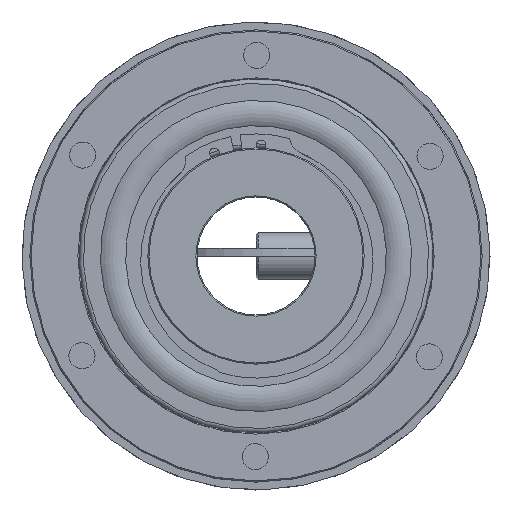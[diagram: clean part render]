
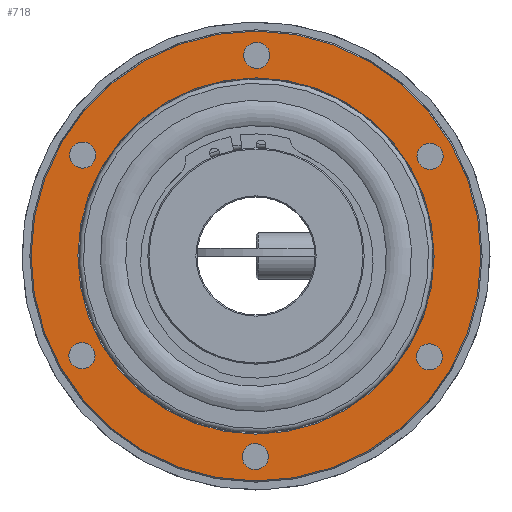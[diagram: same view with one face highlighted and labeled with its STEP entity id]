
A CAD part, left-side view. The second image highlights one B-rep face of the part: STEP entity #718.
In plain terms, the highlighted planar face has unit normal (-1, 0, 0).
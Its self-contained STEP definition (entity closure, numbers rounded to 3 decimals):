
#718 = ADVANCED_FACE( '', ( #1146, #1147, #1148, #1149, #1150, #1151, #1152, #1153 ), #1154, .F. );
#1146 = FACE_OUTER_BOUND( '', #1492, .T. );
#1147 = FACE_BOUND( '', #1493, .T. );
#1148 = FACE_BOUND( '', #1494, .T. );
#1149 = FACE_BOUND( '', #1495, .T. );
#1150 = FACE_BOUND( '', #1496, .T. );
#1151 = FACE_BOUND( '', #1497, .T. );
#1152 = FACE_BOUND( '', #1498, .T. );
#1153 = FACE_BOUND( '', #1499, .T. );
#1154 = PLANE( '', #1500 );
#1492 = EDGE_LOOP( '', ( #2158 ) );
#1493 = EDGE_LOOP( '', ( #2159 ) );
#1494 = EDGE_LOOP( '', ( #2160 ) );
#1495 = EDGE_LOOP( '', ( #2161 ) );
#1496 = EDGE_LOOP( '', ( #2162 ) );
#1497 = EDGE_LOOP( '', ( #2163 ) );
#1498 = EDGE_LOOP( '', ( #2164 ) );
#1499 = EDGE_LOOP( '', ( #2165 ) );
#1500 = AXIS2_PLACEMENT_3D( '', #2166, #2167, #2168 );
#2158 = ORIENTED_EDGE( '', *, *, #2480, .T. );
#2159 = ORIENTED_EDGE( '', *, *, #2481, .T. );
#2160 = ORIENTED_EDGE( '', *, *, #2482, .T. );
#2161 = ORIENTED_EDGE( '', *, *, #2483, .T. );
#2162 = ORIENTED_EDGE( '', *, *, #2484, .T. );
#2163 = ORIENTED_EDGE( '', *, *, #2485, .T. );
#2164 = ORIENTED_EDGE( '', *, *, #2486, .T. );
#2165 = ORIENTED_EDGE( '', *, *, #2487, .T. );
#2166 = CARTESIAN_POINT( '', ( -20.8, 57.5, 0. ) );
#2167 = DIRECTION( '', ( 1., 0., 0. ) );
#2168 = DIRECTION( '', ( 0., 1., 0. ) );
#2480 = EDGE_CURVE( '', #2834, #2834, #2835, .T. );
#2481 = EDGE_CURVE( '', #2836, #2836, #2837, .T. );
#2482 = EDGE_CURVE( '', #2838, #2838, #2839, .T. );
#2483 = EDGE_CURVE( '', #2840, #2840, #2841, .T. );
#2484 = EDGE_CURVE( '', #2842, #2842, #2843, .T. );
#2485 = EDGE_CURVE( '', #2844, #2844, #2845, .T. );
#2486 = EDGE_CURVE( '', #2846, #2846, #2847, .T. );
#2487 = EDGE_CURVE( '', #2848, #2848, #2849, .T. );
#2834 = VERTEX_POINT( '', #3688 );
#2835 = CIRCLE( '', #3689, 57.2 );
#2836 = VERTEX_POINT( '', #3690 );
#2837 = CIRCLE( '', #3691, 45.3 );
#2838 = VERTEX_POINT( '', #3692 );
#2839 = CIRCLE( '', #3693, 3.324 );
#2840 = VERTEX_POINT( '', #3694 );
#2841 = CIRCLE( '', #3695, 3.324 );
#2842 = VERTEX_POINT( '', #3696 );
#2843 = CIRCLE( '', #3697, 3.324 );
#2844 = VERTEX_POINT( '', #3698 );
#2845 = CIRCLE( '', #3699, 3.324 );
#2846 = VERTEX_POINT( '', #3700 );
#2847 = CIRCLE( '', #3701, 3.324 );
#2848 = VERTEX_POINT( '', #3702 );
#2849 = CIRCLE( '', #3703, 3.324 );
#3688 = CARTESIAN_POINT( '', ( -20.8, 0., -57.2 ) );
#3689 = AXIS2_PLACEMENT_3D( '', #4000, #4001, #4002 );
#3690 = CARTESIAN_POINT( '', ( -20.8, 0., -45.3 ) );
#3691 = AXIS2_PLACEMENT_3D( '', #4003, #4004, #4005 );
#3692 = CARTESIAN_POINT( '', ( -20.8, 47.046, 27.162 ) );
#3693 = AXIS2_PLACEMENT_3D( '', #4006, #4007, #4008 );
#3694 = CARTESIAN_POINT( '', ( -20.8, 47.046, -27.162 ) );
#3695 = AXIS2_PLACEMENT_3D( '', #4009, #4010, #4011 );
#3696 = CARTESIAN_POINT( '', ( -20.8, 0., -54.324 ) );
#3697 = AXIS2_PLACEMENT_3D( '', #4012, #4013, #4014 );
#3698 = CARTESIAN_POINT( '', ( -20.8, -47.046, -27.162 ) );
#3699 = AXIS2_PLACEMENT_3D( '', #4015, #4016, #4017 );
#3700 = CARTESIAN_POINT( '', ( -20.8, -47.046, 27.162 ) );
#3701 = AXIS2_PLACEMENT_3D( '', #4018, #4019, #4020 );
#3702 = CARTESIAN_POINT( '', ( -20.8, 0., 54.324 ) );
#3703 = AXIS2_PLACEMENT_3D( '', #4021, #4022, #4023 );
#4000 = CARTESIAN_POINT( '', ( -20.8, 0., 0. ) );
#4001 = DIRECTION( '', ( -1., 0., 0. ) );
#4002 = DIRECTION( '', ( 0., 0., -1. ) );
#4003 = CARTESIAN_POINT( '', ( -20.8, 0., 0. ) );
#4004 = DIRECTION( '', ( 1., 0., 0. ) );
#4005 = DIRECTION( '', ( 0., 0., -1. ) );
#4006 = CARTESIAN_POINT( '', ( -20.8, 44.167, 25.5 ) );
#4007 = DIRECTION( '', ( 1., 0., 0. ) );
#4008 = DIRECTION( '', ( 0., 0.866, 0.5 ) );
#4009 = CARTESIAN_POINT( '', ( -20.8, 44.167, -25.5 ) );
#4010 = DIRECTION( '', ( 1., 0., 0. ) );
#4011 = DIRECTION( '', ( 0., 0.866, -0.5 ) );
#4012 = CARTESIAN_POINT( '', ( -20.8, 0., -51. ) );
#4013 = DIRECTION( '', ( 1., 0., 0. ) );
#4014 = DIRECTION( '', ( 0., 0., -1. ) );
#4015 = CARTESIAN_POINT( '', ( -20.8, -44.167, -25.5 ) );
#4016 = DIRECTION( '', ( 1., 0., 0. ) );
#4017 = DIRECTION( '', ( 0., -0.866, -0.5 ) );
#4018 = CARTESIAN_POINT( '', ( -20.8, -44.167, 25.5 ) );
#4019 = DIRECTION( '', ( 1., 0., 0. ) );
#4020 = DIRECTION( '', ( 0., -0.866, 0.5 ) );
#4021 = CARTESIAN_POINT( '', ( -20.8, 0., 51. ) );
#4022 = DIRECTION( '', ( 1., 0., 0. ) );
#4023 = DIRECTION( '', ( 0., 0., 1. ) );
